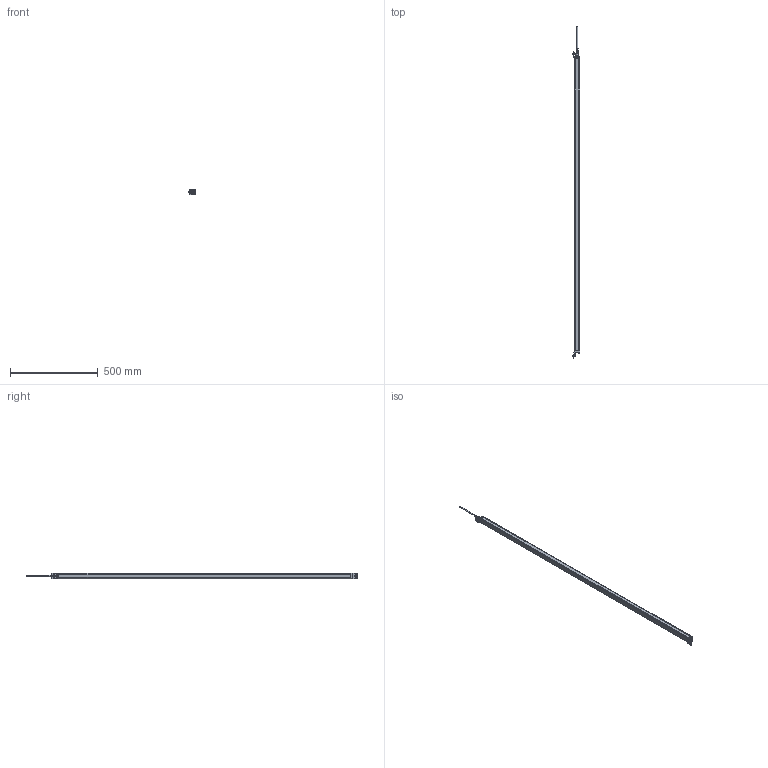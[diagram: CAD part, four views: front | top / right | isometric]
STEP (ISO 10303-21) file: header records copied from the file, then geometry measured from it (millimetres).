
FILE_DESCRIPTION(/* description */ (''),/* implementation_level */ '2;1');
FILE_NAME(/* name */ 'QE56-30-1650_stp__stp.stp',/* time_stamp */ '2023-07-18T21:05:14+08:00',/* author */ (''),/* organization */ (''),/* preprocessor_version */ 'ST-DEVELOPER v14',/* originating_system */ 'SIEMENS PLM Software NX 8.0',/* authorisation */ '');
FILE_SCHEMA (('CONFIG_CONTROL_DESIGN'));
Products named in the file (1): QE54-30-1590_stp__stp
Bounding box: 44.2 x 1888.8 x 30 mm (x, y, z)
Volume: 1360507.2 mm3; surface area: 287636.2 mm2
Topology: 25 solids, 25 shells, 619 faces, 1571 edges, 1037 vertices
Faces by surface type: plane 335, cylinder 196, bspline 57, cone 22, sphere 5, torus 4
Full cylindrical faces by diameter (mm): 0.7 x2, 1 x5, 2 x5, 2.2 x8, 3.6 x8, 4 x4, 5.5 x12, 6 x2, 7 x2, 8 x1, 9.04 x1, 9.1 x1, 10 x3, 10.8 x1, 11 x2, 11.85 x1, 11.9 x1, 14.5 x1, 15 x2, 15.2 x2
Entity records: 41701 total; most frequent: CARTESIAN_POINT 27535, ORIENTED_EDGE 2832, DIRECTION 2774, EDGE_CURVE 1416, AXIS2_PLACEMENT_3D 1007, VERTEX_POINT 983, EDGE_LOOP 813, LINE 760
